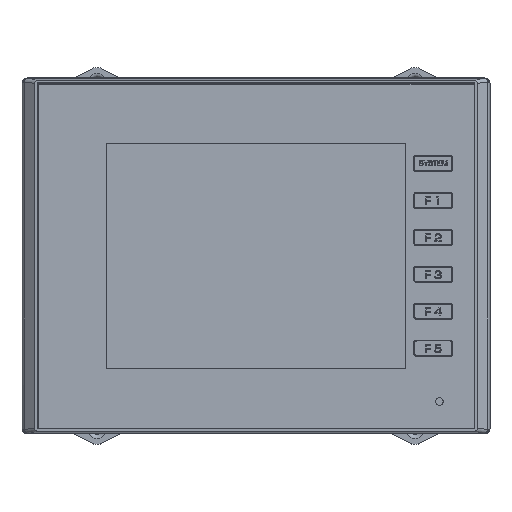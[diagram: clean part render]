
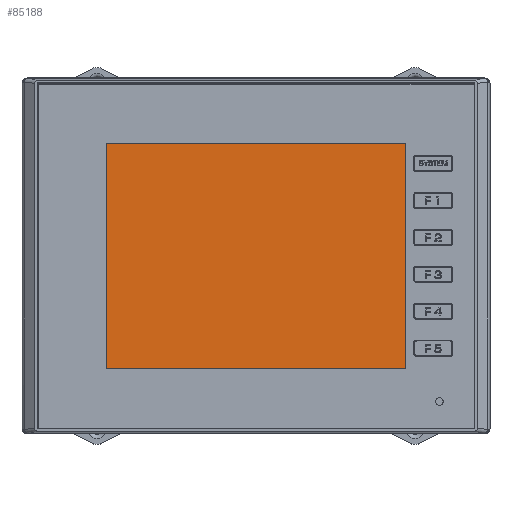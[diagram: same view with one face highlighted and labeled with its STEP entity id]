
A CAD part, top view. The second image highlights one B-rep face of the part: STEP entity #85188.
In plain terms, the highlighted planar face has unit normal (0, 0, 1).
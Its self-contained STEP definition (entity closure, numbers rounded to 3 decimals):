
#29261=DIRECTION('',(0.,-1.,0.));
#29262=VECTOR('',#29261,88.);
#29263=CARTESIAN_POINT('',(-58.4,44.,5.738));
#29264=LINE('',#29263,#29262);
#29265=DIRECTION('',(-1.,0.,0.));
#29266=VECTOR('',#29265,116.8);
#29267=CARTESIAN_POINT('',(58.4,44.,5.738));
#29268=LINE('',#29267,#29266);
#29269=DIRECTION('',(0.,1.,0.));
#29270=VECTOR('',#29269,88.);
#29271=CARTESIAN_POINT('',(58.4,-44.,5.738));
#29272=LINE('',#29271,#29270);
#29273=DIRECTION('',(1.,0.,0.));
#29274=VECTOR('',#29273,116.8);
#29275=CARTESIAN_POINT('',(-58.4,-44.,5.738));
#29276=LINE('',#29275,#29274);
#44469=CARTESIAN_POINT('',(-58.4,44.,5.738));
#44470=CARTESIAN_POINT('',(-58.4,-44.,5.738));
#44471=VERTEX_POINT('',#44469);
#44472=VERTEX_POINT('',#44470);
#44473=CARTESIAN_POINT('',(58.4,-44.,5.738));
#44474=VERTEX_POINT('',#44473);
#44475=CARTESIAN_POINT('',(58.4,44.,5.738));
#44476=VERTEX_POINT('',#44475);
#85177=CARTESIAN_POINT('',(0.,0.,5.738));
#85178=DIRECTION('',(0.,0.,1.));
#85179=DIRECTION('',(1.,0.,0.));
#85180=AXIS2_PLACEMENT_3D('',#85177,#85178,#85179);
#85181=PLANE('',#85180);
#85182=ORIENTED_EDGE('',*,*,#85129,.F.);
#85183=ORIENTED_EDGE('',*,*,#85144,.F.);
#85184=ORIENTED_EDGE('',*,*,#85158,.F.);
#85185=ORIENTED_EDGE('',*,*,#85171,.F.);
#85186=EDGE_LOOP('',(#85182,#85183,#85184,#85185));
#85187=FACE_OUTER_BOUND('',#85186,.F.);
#85188=ADVANCED_FACE('',(#85187),#85181,.T.);
#85129=EDGE_CURVE('',#44471,#44472,#29264,.T.);
#85144=EDGE_CURVE('',#44476,#44471,#29268,.T.);
#85158=EDGE_CURVE('',#44474,#44476,#29272,.T.);
#85171=EDGE_CURVE('',#44472,#44474,#29276,.T.);
